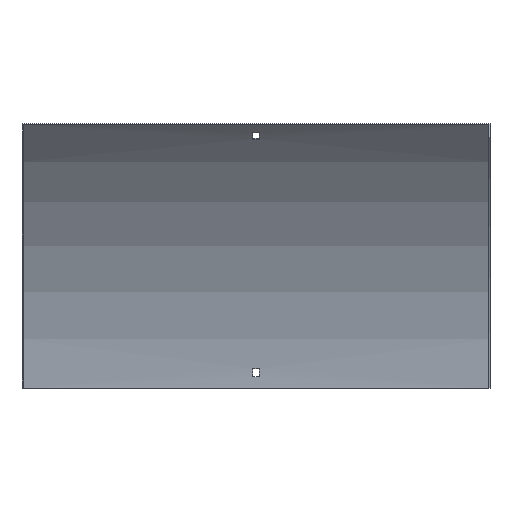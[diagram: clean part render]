
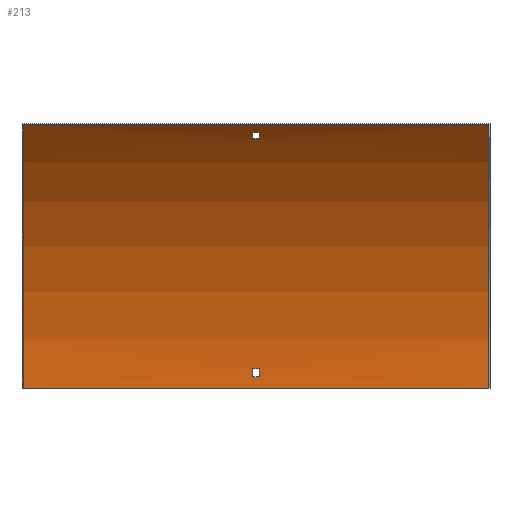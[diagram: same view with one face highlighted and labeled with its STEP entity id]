
A CAD part, front view. The second image highlights one B-rep face of the part: STEP entity #213.
In plain terms, the highlighted cylindrical face has radius 400 mm (diameter 800 mm), a partial arc.
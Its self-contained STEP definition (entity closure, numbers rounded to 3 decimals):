
#9 = CARTESIAN_POINT ( 'NONE',  ( 3.25, -104.198, 267.603 ) ) ;
#18 = CARTESIAN_POINT ( 'NONE',  ( -3.25, -1.68, 12. ) ) ;
#30 = CYLINDRICAL_SURFACE ( 'NONE', #406, 400. ) ;
#33 = VERTEX_POINT ( 'NONE', #426 ) ;
#39 = EDGE_LOOP ( 'NONE', ( #241, #101, #188, #556 ) ) ;
#41 = CARTESIAN_POINT ( 'NONE',  ( -250., -401.5, 0. ) ) ;
#54 = CARTESIAN_POINT ( 'NONE',  ( 3.25, -1.68, 12. ) ) ;
#56 = FACE_OUTER_BOUND ( 'NONE', #39, .T. ) ;
#59 = AXIS2_PLACEMENT_3D ( 'NONE', #347, #540, #73 ) ;
#69 = DIRECTION ( 'NONE',  ( -1., 0., 0. ) ) ;
#73 = DIRECTION ( 'NONE',  ( 0., 0., 1. ) ) ;
#79 = DIRECTION ( 'NONE',  ( 1., 0., 0. ) ) ;
#92 = EDGE_CURVE ( 'NONE', #603, #381, #292, .T. ) ;
#93 = VERTEX_POINT ( 'NONE', #204 ) ;
#101 = ORIENTED_EDGE ( 'NONE', *, *, #267, .F. ) ;
#113 = DIRECTION ( 'NONE',  ( 0., 0., -1. ) ) ;
#119 = VERTEX_POINT ( 'NONE', #18 ) ;
#120 = CARTESIAN_POINT ( 'NONE',  ( -3.25, -401.5, 0. ) ) ;
#121 = VECTOR ( 'NONE', #278, 1000. ) ;
#136 = AXIS2_PLACEMENT_3D ( 'NONE', #303, #69, #253 ) ;
#137 = VECTOR ( 'NONE', #533, 1000. ) ;
#138 = CIRCLE ( 'NONE', #568, 400. ) ;
#146 = EDGE_CURVE ( 'NONE', #314, #93, #315, .T. ) ;
#154 = DIRECTION ( 'NONE',  ( -1., 0., 0. ) ) ;
#155 = CARTESIAN_POINT ( 'NONE',  ( 250., -401.5, 0. ) ) ;
#158 = CARTESIAN_POINT ( 'NONE',  ( 251.5, -110.299, 274.23 ) ) ;
#160 = ORIENTED_EDGE ( 'NONE', *, *, #146, .T. ) ;
#163 = EDGE_CURVE ( 'NONE', #409, #512, #605, .T. ) ;
#188 = ORIENTED_EDGE ( 'NONE', *, *, #163, .T. ) ;
#193 = EDGE_CURVE ( 'NONE', #93, #336, #582, .T. ) ;
#196 = EDGE_CURVE ( 'NONE', #284, #119, #598, .T. ) ;
#199 = EDGE_CURVE ( 'NONE', #336, #547, #407, .T. ) ;
#204 = CARTESIAN_POINT ( 'NONE',  ( -3.25, -110.299, 274.23 ) ) ;
#211 = CARTESIAN_POINT ( 'NONE',  ( 251.5, -401.5, 0. ) ) ;
#213 = ADVANCED_FACE ( 'NONE', ( #258, #56, #531 ), #30, .F. ) ;
#214 = DIRECTION ( 'NONE',  ( 0., 0., 1. ) ) ;
#233 = AXIS2_PLACEMENT_3D ( 'NONE', #352, #356, #249 ) ;
#235 = EDGE_LOOP ( 'NONE', ( #449, #289, #590, #506 ) ) ;
#236 = CARTESIAN_POINT ( 'NONE',  ( 250., -118.657, 282.843 ) ) ;
#240 = VECTOR ( 'NONE', #452, 1000. ) ;
#241 = ORIENTED_EDGE ( 'NONE', *, *, #250, .F. ) ;
#243 = VECTOR ( 'NONE', #463, 1000. ) ;
#248 = AXIS2_PLACEMENT_3D ( 'NONE', #120, #486, #344 ) ;
#249 = DIRECTION ( 'NONE',  ( 0., 0., -1. ) ) ;
#250 = EDGE_CURVE ( 'NONE', #405, #33, #138, .T. ) ;
#252 = CARTESIAN_POINT ( 'NONE',  ( 250., -1.5, 0. ) ) ;
#253 = DIRECTION ( 'NONE',  ( 0., 0., 1. ) ) ;
#254 = CARTESIAN_POINT ( 'NONE',  ( 3.25, -2.052, 21. ) ) ;
#258 = FACE_BOUND ( 'NONE', #235, .T. ) ;
#267 = EDGE_CURVE ( 'NONE', #409, #405, #421, .T. ) ;
#270 = ORIENTED_EDGE ( 'NONE', *, *, #193, .T. ) ;
#278 = DIRECTION ( 'NONE',  ( -1., 0., 0. ) ) ;
#279 = LINE ( 'NONE', #461, #121 ) ;
#284 = VERTEX_POINT ( 'NONE', #311 ) ;
#289 = ORIENTED_EDGE ( 'NONE', *, *, #467, .F. ) ;
#292 = CIRCLE ( 'NONE', #233, 400. ) ;
#303 = CARTESIAN_POINT ( 'NONE',  ( 3.25, -401.5, 0. ) ) ;
#311 = CARTESIAN_POINT ( 'NONE',  ( -3.25, -2.052, 21. ) ) ;
#314 = VERTEX_POINT ( 'NONE', #561 ) ;
#315 = CIRCLE ( 'NONE', #248, 400. ) ;
#335 = ORIENTED_EDGE ( 'NONE', *, *, #199, .T. ) ;
#336 = VERTEX_POINT ( 'NONE', #494 ) ;
#344 = DIRECTION ( 'NONE',  ( 0., 0., -1. ) ) ;
#346 = CARTESIAN_POINT ( 'NONE',  ( -250., -1.5, 0. ) ) ;
#347 = CARTESIAN_POINT ( 'NONE',  ( -3.25, -401.5, 0. ) ) ;
#349 = CARTESIAN_POINT ( 'NONE',  ( 250., -118.657, 282.843 ) ) ;
#350 = AXIS2_PLACEMENT_3D ( 'NONE', #155, #384, #113 ) ;
#352 = CARTESIAN_POINT ( 'NONE',  ( 3.25, -401.5, 0. ) ) ;
#356 = DIRECTION ( 'NONE',  ( 1., 0., 0. ) ) ;
#366 = EDGE_CURVE ( 'NONE', #119, #603, #456, .T. ) ;
#370 = CARTESIAN_POINT ( 'NONE',  ( 250., -1.5, 0. ) ) ;
#381 = VERTEX_POINT ( 'NONE', #254 ) ;
#384 = DIRECTION ( 'NONE',  ( 1., 0., 0. ) ) ;
#394 = LINE ( 'NONE', #349, #535 ) ;
#395 = DIRECTION ( 'NONE',  ( 1., 0., 0. ) ) ;
#396 = CARTESIAN_POINT ( 'NONE',  ( 251.5, -1.68, 12. ) ) ;
#400 = EDGE_LOOP ( 'NONE', ( #429, #160, #270, #335 ) ) ;
#405 = VERTEX_POINT ( 'NONE', #346 ) ;
#406 = AXIS2_PLACEMENT_3D ( 'NONE', #211, #587, #214 ) ;
#407 = CIRCLE ( 'NONE', #136, 400. ) ;
#409 = VERTEX_POINT ( 'NONE', #252 ) ;
#410 = EDGE_CURVE ( 'NONE', #547, #314, #450, .T. ) ;
#421 = LINE ( 'NONE', #370, #243 ) ;
#424 = EDGE_CURVE ( 'NONE', #512, #33, #394, .T. ) ;
#426 = CARTESIAN_POINT ( 'NONE',  ( -250., -118.657, 282.843 ) ) ;
#429 = ORIENTED_EDGE ( 'NONE', *, *, #410, .T. ) ;
#449 = ORIENTED_EDGE ( 'NONE', *, *, #196, .F. ) ;
#450 = LINE ( 'NONE', #586, #137 ) ;
#452 = DIRECTION ( 'NONE',  ( 1., 0., 0. ) ) ;
#456 = LINE ( 'NONE', #396, #240 ) ;
#461 = CARTESIAN_POINT ( 'NONE',  ( 251.5, -2.052, 21. ) ) ;
#463 = DIRECTION ( 'NONE',  ( -1., 0., 0. ) ) ;
#466 = DIRECTION ( 'NONE',  ( 0., 0., -1. ) ) ;
#467 = EDGE_CURVE ( 'NONE', #381, #284, #279, .T. ) ;
#486 = DIRECTION ( 'NONE',  ( 1., 0., 0. ) ) ;
#494 = CARTESIAN_POINT ( 'NONE',  ( 3.25, -110.299, 274.23 ) ) ;
#496 = VECTOR ( 'NONE', #395, 1000. ) ;
#506 = ORIENTED_EDGE ( 'NONE', *, *, #366, .F. ) ;
#512 = VERTEX_POINT ( 'NONE', #236 ) ;
#531 = FACE_BOUND ( 'NONE', #400, .T. ) ;
#533 = DIRECTION ( 'NONE',  ( -1., 0., 0. ) ) ;
#535 = VECTOR ( 'NONE', #154, 1000. ) ;
#540 = DIRECTION ( 'NONE',  ( -1., 0., 0. ) ) ;
#547 = VERTEX_POINT ( 'NONE', #9 ) ;
#556 = ORIENTED_EDGE ( 'NONE', *, *, #424, .T. ) ;
#561 = CARTESIAN_POINT ( 'NONE',  ( -3.25, -104.198, 267.603 ) ) ;
#568 = AXIS2_PLACEMENT_3D ( 'NONE', #41, #79, #466 ) ;
#582 = LINE ( 'NONE', #158, #496 ) ;
#586 = CARTESIAN_POINT ( 'NONE',  ( 251.5, -104.198, 267.603 ) ) ;
#587 = DIRECTION ( 'NONE',  ( -1., 0., 0. ) ) ;
#590 = ORIENTED_EDGE ( 'NONE', *, *, #92, .F. ) ;
#598 = CIRCLE ( 'NONE', #59, 400. ) ;
#603 = VERTEX_POINT ( 'NONE', #54 ) ;
#605 = CIRCLE ( 'NONE', #350, 400. ) ;
